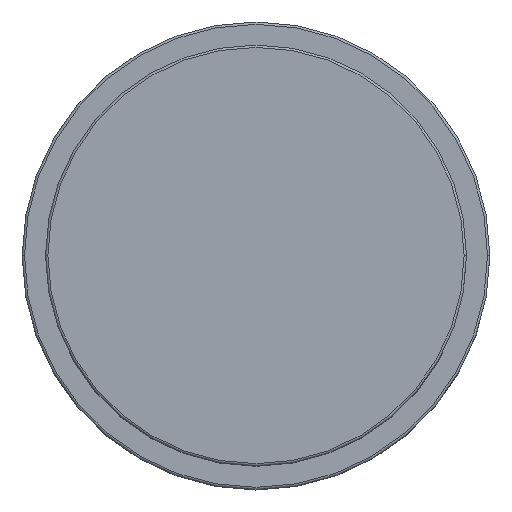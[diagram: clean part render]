
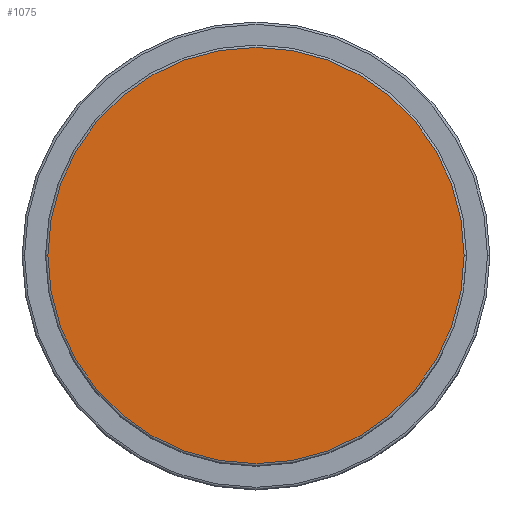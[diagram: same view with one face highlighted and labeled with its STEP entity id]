
A CAD part, top view. The second image highlights one B-rep face of the part: STEP entity #1075.
In plain terms, the highlighted planar face has unit normal (0, 0, 1).
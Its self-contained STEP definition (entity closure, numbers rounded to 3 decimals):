
#95 = DIRECTION ( 'NONE',  ( 0., 0., 1. ) ) ;
#149 = DIRECTION ( 'NONE',  ( 0., 0., 1. ) ) ;
#155 = CARTESIAN_POINT ( 'NONE',  ( 0., 0., 57. ) ) ;
#261 = CIRCLE ( 'NONE', #295, 44.5 ) ;
#270 = VERTEX_POINT ( 'NONE', #878 ) ;
#284 = VERTEX_POINT ( 'NONE', #885 ) ;
#295 = AXIS2_PLACEMENT_3D ( 'NONE', #918, #149, #521 ) ;
#474 = ORIENTED_EDGE ( 'NONE', *, *, #607, .T. ) ;
#521 = DIRECTION ( 'NONE',  ( 1., 0., 0. ) ) ;
#604 = EDGE_CURVE ( 'NONE', #270, #284, #261, .T. ) ;
#607 = EDGE_CURVE ( 'NONE', #284, #270, #1642, .T. ) ;
#648 = AXIS2_PLACEMENT_3D ( 'NONE', #1257, #95, #1111 ) ;
#657 = DIRECTION ( 'NONE',  ( 1., 0., 0. ) ) ;
#660 = EDGE_LOOP ( 'NONE', ( #474, #1503 ) ) ;
#878 = CARTESIAN_POINT ( 'NONE',  ( -44.5, 0., 57. ) ) ;
#885 = CARTESIAN_POINT ( 'NONE',  ( 44.5, 0., 57. ) ) ;
#917 = PLANE ( 'NONE',  #648 ) ;
#918 = CARTESIAN_POINT ( 'NONE',  ( 0., 0., 57. ) ) ;
#1075 = ADVANCED_FACE ( 'NONE', ( #1617 ), #917, .T. ) ;
#1111 = DIRECTION ( 'NONE',  ( 1., 0., 0. ) ) ;
#1257 = CARTESIAN_POINT ( 'NONE',  ( 0., 0., 57. ) ) ;
#1298 = AXIS2_PLACEMENT_3D ( 'NONE', #155, #1420, #657 ) ;
#1420 = DIRECTION ( 'NONE',  ( 0., 0., 1. ) ) ;
#1503 = ORIENTED_EDGE ( 'NONE', *, *, #604, .T. ) ;
#1617 = FACE_OUTER_BOUND ( 'NONE', #660, .T. ) ;
#1642 = CIRCLE ( 'NONE', #1298, 44.5 ) ;
